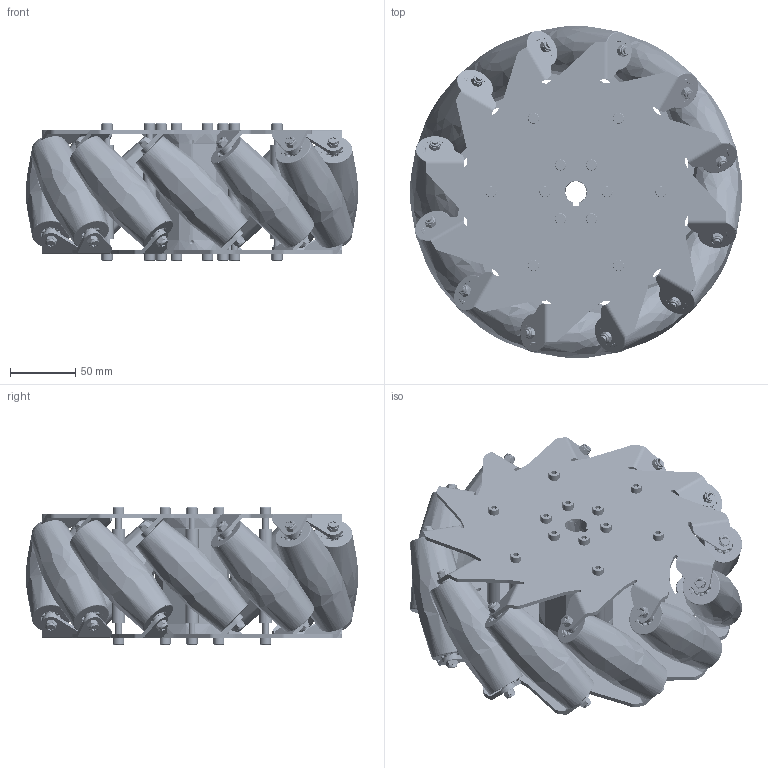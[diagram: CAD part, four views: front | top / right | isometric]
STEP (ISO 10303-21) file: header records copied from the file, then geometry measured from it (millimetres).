
FILE_DESCRIPTION(('Open CASCADE Model'),'2;1');
FILE_NAME('MM118-R.STEP','2026-10-18T18:24:53',('Author'),( 'Open CASCADE'),'Open CASCADE STEP processor 7.9','Open CASCADE 7.9' ,'Unknown');
FILE_SCHEMA(('AUTOMOTIVE_DESIGN { 1 0 10303 214 1 1 1 1 }'));
Length unit declared in the file: millimetre
Products named in the file (509): MM118-R; Open CASCADE STEP translator 7.9 18.1; Open CASCADE STEP translator 7.9 18.1.1; Open CASCADE STEP translator 7.9 18.1.2; Open CASCADE STEP translator 7.9 18.1.3; Open CASCADE STEP translator 7.9 18.1.4; Open CASCADE STEP translator 7.9 18.1.5; Open CASCADE STEP translator 7.9 18.1.6; Open CASCADE STEP translator 7.9 18.1.7; Open CASCADE STEP translator 7.9 18.1.8; Open CASCADE STEP translator 7.9 18.1.9; Open CASCADE STEP translator 7.9 18.1.10; Open CASCADE STEP translator 7.9 18.1.11; Open CASCADE STEP translator 7.9 18.1.12; Open CASCADE STEP translator 7.9 18.1.13; Open CASCADE STEP translator 7.9 18.1.14; Open CASCADE STEP translator 7.9 18.1.15; Open CASCADE STEP translator 7.9 18.1.16; Open CASCADE STEP translator 7.9 18.1.17; Open CASCADE STEP translator 7.9 18.1.18; Open CASCADE STEP translator 7.9 18.1.19; Open CASCADE STEP translator 7.9 18.1.20; Open CASCADE STEP translator 7.9 18.1.21; Open CASCADE STEP translator 7.9 18.1.22; Open CASCADE STEP translator 7.9 18.1.23; Open CASCADE STEP translator 7.9 18.1.24; Open CASCADE STEP translator 7.9 18.1.25; Open CASCADE STEP translator 7.9 18.1.26; Open CASCADE STEP translator 7.9 18.1.27; Open CASCADE STEP translator 7.9 18.1.28; Open CASCADE STEP translator 7.9 18.1.29; Open CASCADE STEP translator 7.9 18.1.30; Open CASCADE STEP translator 7.9 18.1.31; Open CASCADE STEP translator 7.9 18.1.32; Open CASCADE STEP translator 7.9 18.1.33; Open CASCADE STEP translator 7.9 18.1.34; Open CASCADE STEP translator 7.9 18.1.35; Open CASCADE STEP translator 7.9 18.1.36; Open CASCADE STEP translator 7.9 18.1.37; Open CASCADE STEP translator 7.9 18.1.38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
Assembly tree (628 placements, depth 3):
  MM118-R
    Open CASCADE STEP translator 7.9 18.1
      Open CASCADE STEP translator 7.9 18.1.1
      Open CASCADE STEP translator 7.9 18.1.2
      Open CASCADE STEP translator 7.9 18.1.3
      Open CASCADE STEP translator 7.9 18.1.4
      Open CASCADE STEP translator 7.9 18.1.5
      Open CASCADE STEP translator 7.9 18.1.6
      Open CASCADE STEP translator 7.9 18.1.7
      Open CASCADE STEP translator 7.9 18.1.8
      Open CASCADE STEP translator 7.9 18.1.9
      Open CASCADE STEP translator 7.9 18.1.10
      Open CASCADE STEP translator 7.9 18.1.11
      Open CASCADE STEP translator 7.9 18.1.12
      Open CASCADE STEP translator 7.9 18.1.13
      Open CASCADE STEP translator 7.9 18.1.14
      Open CASCADE STEP translator 7.9 18.1.15
      Open CASCADE STEP translator 7.9 18.1.16
      Open CASCADE STEP translator 7.9 18.1.17
      Open CASCADE STEP translator 7.9 18.1.18
      Open CASCADE STEP translator 7.9 18.1.19
      Open CASCADE STEP translator 7.9 18.1.20
      Open CASCADE STEP translator 7.9 18.1.21
      Open CASCADE STEP translator 7.9 18.1.22
      Open CASCADE STEP translator 7.9 18.1.23
      Open CASCADE STEP translator 7.9 18.1.24
      Open CASCADE STEP translator 7.9 18.1.25
      Open CASCADE STEP translator 7.9 18.1.26
      Open CASCADE STEP translator 7.9 18.1.27
      Open CASCADE STEP translator 7.9 18.1.28
      Open CASCADE STEP translator 7.9 18.1.29
      Open CASCADE STEP translator 7.9 18.1.30
      Open CASCADE STEP translator 7.9 18.1.31
      Open CASCADE STEP translator 7.9 18.1.32
      Open CASCADE STEP translator 7.9 18.1.33
      Open CASCADE STEP translator 7.9 18.1.34
      Open CASCADE STEP translator 7.9 18.1.35
      Open CASCADE STEP translator 7.9 18.1.36
      Open CASCADE STEP translator 7.9 18.1.37
      Open CASCADE STEP translator 7.9 18.1.38
      Open CASCADE STEP translator 7.9 18.1.39
      Open CASCADE STEP translator 7.9 18.1.40
      Open CASCADE STEP translator 7.9 18.1.41
      Open CASCADE STEP translator 7.9 18.1.42
      Open CASCADE STEP translator 7.9 18.1.43
      Open CASCADE STEP translator 7.9 18.1.44
      Open CASCADE STEP translator 7.9 18.1.45
      Open CASCADE STEP translator 7.9 18.1.46
      Open CASCADE STEP translator 7.9 18.1.47
      Open CASCADE STEP translator 7.9 18.1.48
      Open CASCADE STEP translator 7.9 18.1.49
      Open CASCADE STEP translator 7.9 18.1.50
      Open CASCADE STEP translator 7.9 18.1.51
      Open CASCADE STEP translator 7.9 18.1.52
      Open CASCADE STEP translator 7.9 18.1.53
      Open CASCADE STEP translator 7.9 18.1.54
      Open CASCADE STEP translator 7.9 18.1.55
      Open CASCADE STEP translator 7.9 18.1.56
      Open CASCADE STEP translator 7.9 18.1.57
      Open CASCADE STEP translator 7.9 18.1.58
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Bounding box: 253.99 x 253.99 x 105 mm (x, y, z)
Surface area: 458998.3 mm2 (no closed solid volume)
Topology: 0 solids, 3445 shells, 3445 faces, 44378 edges, 43560 vertices
Faces by surface type: revolution 1812, bspline 1633
Entity records: 117928 total; most frequent: CARTESIAN_POINT 45385, B_SPLINE_CURVE_WITH_KNOTS 11802, ORIENTED_EDGE 6800, EDGE_CURVE 6800, VERTEX_POINT 6800, SURFACE_CURVE 6800, PCURVE 6800, DEFINITIONAL_REPRESENTATION 6800
